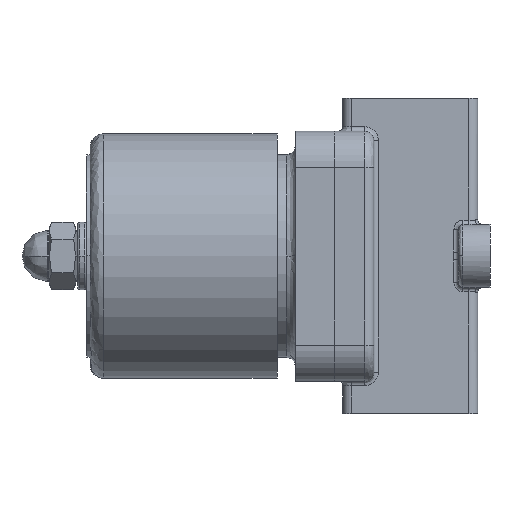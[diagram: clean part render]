
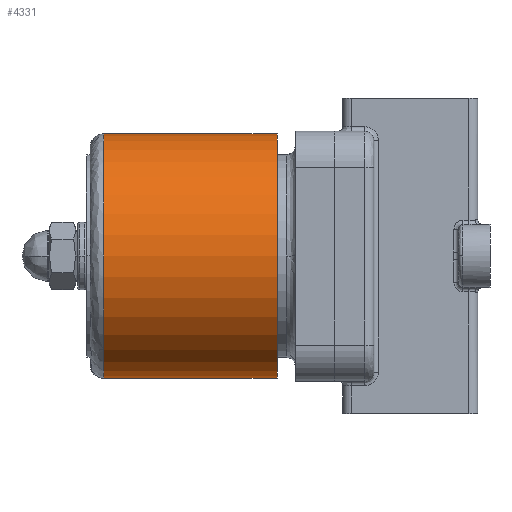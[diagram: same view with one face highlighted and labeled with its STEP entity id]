
A CAD part, left-side view. The second image highlights one B-rep face of the part: STEP entity #4331.
In plain terms, the highlighted cylindrical face has radius 27.15 mm (diameter 54.3 mm), a partial arc.
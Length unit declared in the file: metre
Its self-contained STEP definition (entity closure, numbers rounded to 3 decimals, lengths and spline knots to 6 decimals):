
#91 = CARTESIAN_POINT ( 'NONE',  ( 0., 0.0296, 0.02715 ) ) ;
#227 = ORIENTED_EDGE ( 'NONE', *, *, #13331, .T. ) ;
#694 = DIRECTION ( 'NONE',  ( 0., 0., -1. ) ) ;
#1130 = AXIS2_PLACEMENT_3D ( 'NONE', #13488, #7183, #694 ) ;
#2246 = ORIENTED_EDGE ( 'NONE', *, *, #12309, .F. ) ;
#2733 = CARTESIAN_POINT ( 'NONE',  ( 0., 0.0681, 0.02715 ) ) ;
#4331 = ADVANCED_FACE ( 'NONE', ( #13443 ), #4995, .T. ) ;
#4545 = CARTESIAN_POINT ( 'NONE',  ( 0., 0.0681, 0.02715 ) ) ;
#4995 = CYLINDRICAL_SURFACE ( 'NONE', #5579, 0.02715 ) ;
#5058 = CARTESIAN_POINT ( 'NONE',  ( 0., 0.0296, 0. ) ) ;
#5081 = DIRECTION ( 'NONE',  ( 0., -1., 0. ) ) ;
#5110 = DIRECTION ( 'NONE',  ( 0., 0., -1. ) ) ;
#5579 = AXIS2_PLACEMENT_3D ( 'NONE', #12376, #12386, #9851 ) ;
#5595 = VERTEX_POINT ( 'NONE', #91 ) ;
#5614 = DIRECTION ( 'NONE',  ( 0., -1., 0. ) ) ;
#5691 = AXIS2_PLACEMENT_3D ( 'NONE', #5058, #5081, #5110 ) ;
#5970 = EDGE_CURVE ( 'NONE', #5595, #12445, #9321, .T. ) ;
#6353 = VERTEX_POINT ( 'NONE', #11359 ) ;
#6643 = LINE ( 'NONE', #4545, #11978 ) ;
#7183 = DIRECTION ( 'NONE',  ( 0., 1., 0. ) ) ;
#7400 = ORIENTED_EDGE ( 'NONE', *, *, #5970, .F. ) ;
#7469 = VECTOR ( 'NONE', #13739, 1. ) ;
#7592 = VERTEX_POINT ( 'NONE', #2733 ) ;
#8328 = CIRCLE ( 'NONE', #1130, 0.02715 ) ;
#8474 = CARTESIAN_POINT ( 'NONE',  ( 0., 0.0681, -0.02715 ) ) ;
#9105 = EDGE_LOOP ( 'NONE', ( #10184, #2246, #227, #7400 ) ) ;
#9321 = CIRCLE ( 'NONE', #5691, 0.02715 ) ;
#9851 = DIRECTION ( 'NONE',  ( 0., 0., -1. ) ) ;
#10184 = ORIENTED_EDGE ( 'NONE', *, *, #13135, .F. ) ;
#10310 = LINE ( 'NONE', #8474, #7469 ) ;
#11359 = CARTESIAN_POINT ( 'NONE',  ( 0., 0.0681, -0.02715 ) ) ;
#11978 = VECTOR ( 'NONE', #5614, 1. ) ;
#12059 = CARTESIAN_POINT ( 'NONE',  ( 0., 0.0296, -0.02715 ) ) ;
#12309 = EDGE_CURVE ( 'NONE', #6353, #7592, #8328, .T. ) ;
#12376 = CARTESIAN_POINT ( 'NONE',  ( 0., 0.0681, 0. ) ) ;
#12386 = DIRECTION ( 'NONE',  ( 0., -1., 0. ) ) ;
#12445 = VERTEX_POINT ( 'NONE', #12059 ) ;
#13135 = EDGE_CURVE ( 'NONE', #7592, #5595, #6643, .T. ) ;
#13331 = EDGE_CURVE ( 'NONE', #6353, #12445, #10310, .T. ) ;
#13443 = FACE_OUTER_BOUND ( 'NONE', #9105, .T. ) ;
#13488 = CARTESIAN_POINT ( 'NONE',  ( 0., 0.0681, 0. ) ) ;
#13739 = DIRECTION ( 'NONE',  ( 0., -1., 0. ) ) ;
